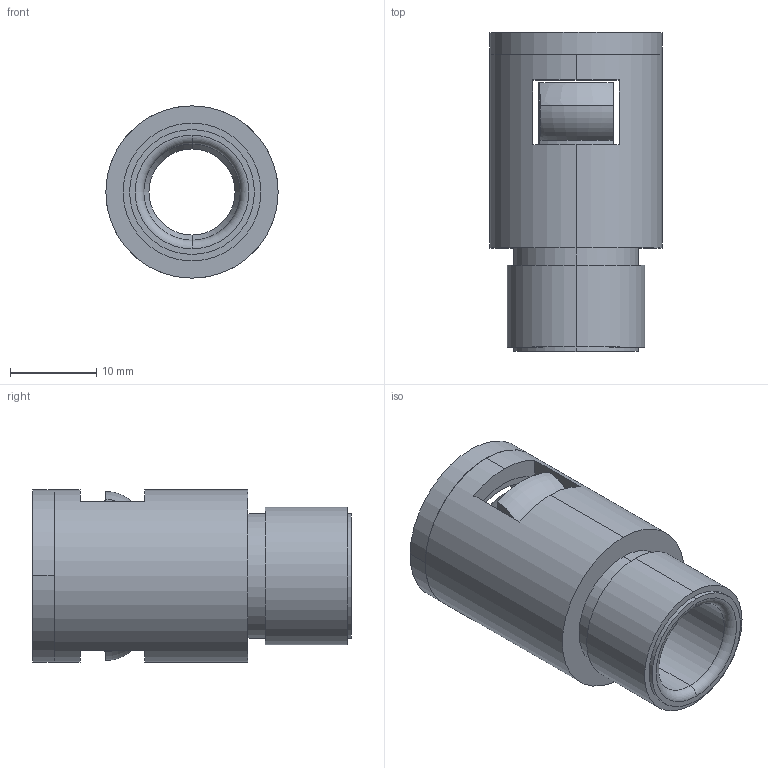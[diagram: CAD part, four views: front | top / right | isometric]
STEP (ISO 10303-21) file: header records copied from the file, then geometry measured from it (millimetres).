
FILE_DESCRIPTION (( 'STEP AP203' ), '1' );
FILE_NAME ('WQG-M16-AD13.0.STEP', '2012-06-04T07:07:52', ( '迾輿躂瑞' ), ( 'WwW.YlmF.CoM' ), 'SwSTEP 2.0', 'SolidWorks 2010', '' );
FILE_SCHEMA (( 'CONFIG_CONTROL_DESIGN' ));
Length unit declared in the file: millimetre
Products named in the file (3): NSSK-AD13.0; WQG-M16-AD13.0; 錨璃11
Assembly tree (2 placements, depth 2):
  WQG-M16-AD13.0
    錨璃11
    NSSK-AD13.0
Bounding box: 20 x 37 x 20 mm (x, y, z)
Volume: 3772.7 mm3; surface area: 5713.6 mm2
Topology: 1 solids, 4 shells, 73 faces, 186 edges, 120 vertices
Faces by surface type: plane 33, cylinder 22, torus 10, cone 8
Entity records: 2657 total; most frequent: CARTESIAN_POINT 513, DIRECTION 422, ORIENTED_EDGE 364, EDGE_CURVE 186, AXIS2_PLACEMENT_3D 173, VERTEX_POINT 120, CIRCLE 94, EDGE_LOOP 86
